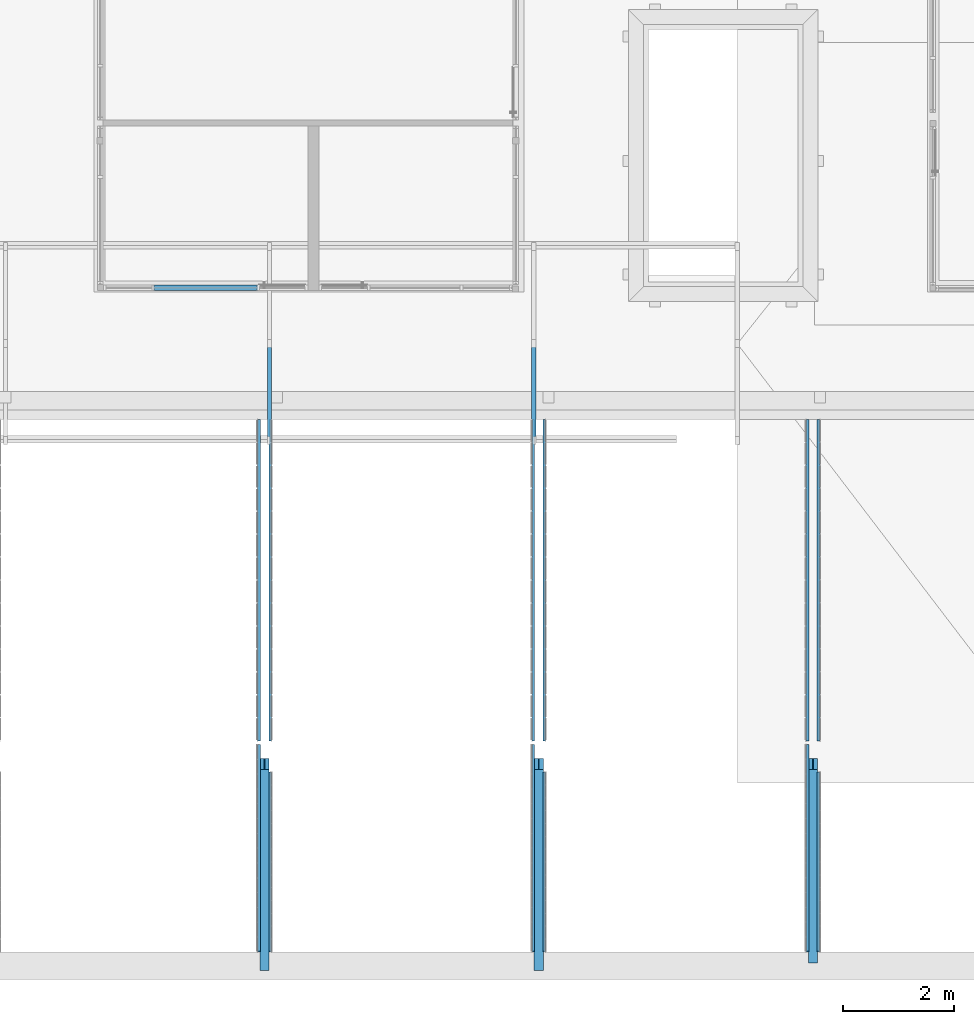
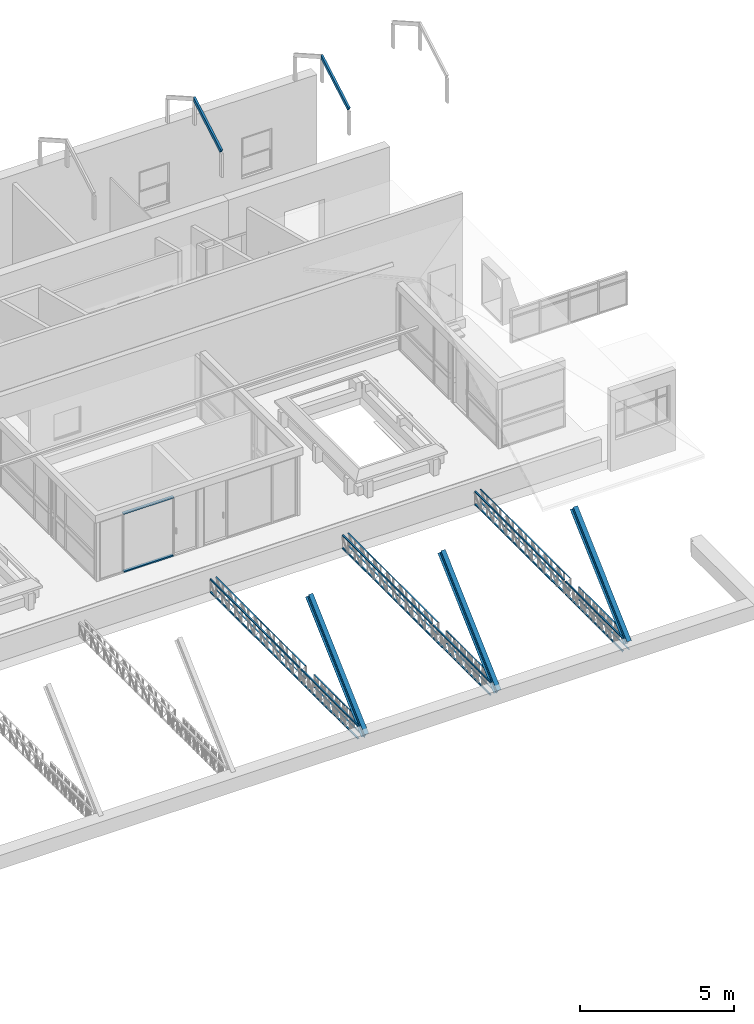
# One storey, part 10 of 153: 29 beams, 2 members, 15 elements without a shape of their own.
"""IFC4 building model written with IfcOpenShell, lengths in metres."""

import ifcopenshell
import ifcopenshell.guid

model = None  # the IFC model being written
_history = None  # IfcOwnerHistory: only IFC2X3 demands one
_inside = {}  # id of a spatial element -> (the spatial element, [elements in it])
_under = {}  # id of a project, library or spatial element -> (it, [spatial elements below it])
_declared = {}  # id of a project -> (the project, [libraries it declares])
_typed = {}  # id of a type object -> (the type object, [elements of that type])
_made_of = {}  # id of a material, layer set ... -> (it, [elements and type objects made of it])


def new_model(schema):
    """Start an empty IFC model of exactly this schema.

    Asked for "IFC4X3", IfcOpenShell would pick the latest addendum, in which some entities
    have other attributes; the version numbers below select the first issue.
    IFC2X3 requires an IfcOwnerHistory on every rooted entity: one is made here for all.
    """
    global model, _history
    if schema == "IFC4X3":
        model = ifcopenshell.file(schema_version=(4, 3, 0, 0))
    else:
        model = ifcopenshell.file(schema=schema)
    _inside.clear()
    _under.clear()
    _declared.clear()
    _typed.clear()
    _made_of.clear()
    _history = None
    if model.schema == "IFC2X3":
        org = make("IfcOrganization", Name="unknown")
        user = make(
            "IfcPersonAndOrganization",
            ThePerson=make("IfcPerson", FamilyName="unknown"),
            TheOrganization=org,
        )
        app = make(
            "IfcApplication",
            ApplicationDeveloper=org,
            Version="unknown",
            ApplicationFullName="unknown",
            ApplicationIdentifier="unknown",
        )
        _history = make(
            "IfcOwnerHistory",
            OwningUser=user,
            OwningApplication=app,
            ChangeAction="ADDED",
            CreationDate=0,
        )
    return model


def make(cls, **values):
    """One entity of the class cls with the attributes given. An attribute that is None is left unset."""
    return model.create_entity(
        cls, **{name: value for name, value in values.items() if value is not None}
    )


def entity(cls, *values):
    """Any entity or typed value of the class cls, its attributes in the order of the schema. None: left unset."""
    e = model.create_entity(cls)
    for i, value in enumerate(values):
        if value is not None:
            e[i] = value
    return e


def rooted(cls, **values):
    """An entity with a GlobalId (a new one), such as an element, a storey or a relation."""
    return make(cls, GlobalId=ifcopenshell.guid.new(), OwnerHistory=_history, **values)


def si_unit(unit_type, name, prefix=None):
    """IfcSIUnit, for example si_unit("LENGTHUNIT", "METRE", prefix="MILLI")."""
    return make("IfcSIUnit", UnitType=unit_type, Prefix=prefix, Name=name)


def converted_unit(unit_type, name, factor, base, dimensions=None, offset=None):
    """IfcConversionBasedUnit, such as the inch: factor (a typed value) times the base unit."""
    return make(
        "IfcConversionBasedUnit"
        if offset is None
        else "IfcConversionBasedUnitWithOffset",
        ConversionOffset=offset,
        Dimensions=None
        if dimensions is None
        else entity("IfcDimensionalExponents", *dimensions),
        UnitType=unit_type,
        Name=name,
        ConversionFactor=make(
            "IfcMeasureWithUnit", ValueComponent=factor, UnitComponent=base
        ),
    )


def derived_unit(unit_type, elements):
    """IfcDerivedUnit: a product of units, each with its exponent."""
    return make(
        "IfcDerivedUnit",
        Elements=[
            make("IfcDerivedUnitElement", Unit=unit, Exponent=power)
            for unit, power in elements
        ],
        UnitType=unit_type,
    )


def assignment(units):
    """IfcUnitAssignment: the units of a project."""
    return None if units is None else make("IfcUnitAssignment", Units=units)


def point(xyz):
    """IfcCartesianPoint."""
    return None if xyz is None else make("IfcCartesianPoint", Coordinates=xyz)


def direction(xyz):
    """IfcDirection."""
    return None if xyz is None else make("IfcDirection", DirectionRatios=xyz)


def frame(location, z_axis=None, x_axis=None):
    """IfcAxis2Placement3D, a coordinate frame: its origin and axes. An axis left out is left unset."""
    return make(
        "IfcAxis2Placement3D",
        Location=point(location),
        Axis=direction(z_axis),
        RefDirection=direction(x_axis),
    )


def origin():
    """The frame at (0, 0, 0) with its axes left unset."""
    return frame((0.0, 0.0, 0.0))


def place(relative_to, where):
    """IfcLocalPlacement: puts the frame where relative to a parent placement (None: the world)."""
    return make(
        "IfcLocalPlacement", PlacementRelTo=relative_to, RelativePlacement=where
    )


def context(
    kind, dimensions, precision=None, world=None, true_north=None, identifier=None
):
    """IfcGeometricRepresentationContext, for example the 3D "Model" context."""
    return make(
        "IfcGeometricRepresentationContext",
        ContextIdentifier=identifier,
        ContextType=kind,
        CoordinateSpaceDimension=dimensions,
        Precision=precision,
        WorldCoordinateSystem=world,
        TrueNorth=true_north,
    )


def subcontext(parent, identifier, kind, view, scale=None):
    """IfcGeometricRepresentationSubContext, for example "Body" below "Model"."""
    return make(
        "IfcGeometricRepresentationSubContext",
        ContextIdentifier=identifier,
        ContextType=kind,
        ParentContext=parent,
        TargetScale=scale,
        TargetView=view,
    )


def project(units=None, contexts=None):
    """IfcProject with its units and contexts."""
    return rooted(
        "IfcProject",
        Name="project",
        RepresentationContexts=contexts,
        UnitsInContext=assignment(units),
    )


def spatial(cls, under=None, at=None, **own):
    """A site, building, storey or space (cls), placed at a placement, below another one or the project."""
    s = rooted(cls, ObjectPlacement=at, **own)
    if under is not None:
        _under.setdefault(under.id(), (under, []))[1].append(s)
    return s


def point_list(points):
    """IfcCartesianPointList2D or 3D."""
    cls = (
        "IfcCartesianPointList2D" if len(points[0]) == 2 else "IfcCartesianPointList3D"
    )
    return make(cls, CoordList=points)


def line(*indices):
    """IfcLineIndex: a straight run through numbered points of an indexed curve."""
    return model.create_entity("IfcLineIndex", indices)


def arc(*indices):
    """IfcArcIndex: an arc through three numbered points of an indexed curve."""
    return model.create_entity("IfcArcIndex", indices)


def indexed_curve(points, segments=None, self_intersect=None):
    """IfcIndexedPolyCurve: lines and arcs through numbered points (the first is 1)."""
    return make(
        "IfcIndexedPolyCurve",
        Points=point_list(points),
        Segments=segments,
        SelfIntersect=self_intersect,
    )


def outline(outer, holes=None, kind="AREA"):
    """IfcArbitraryClosedProfileDef: a profile drawn as a closed curve; with holes, ...WithVoids."""
    if holes is None:
        return make("IfcArbitraryClosedProfileDef", ProfileType=kind, OuterCurve=outer)
    return make(
        "IfcArbitraryProfileDefWithVoids",
        ProfileType=kind,
        OuterCurve=outer,
        InnerCurves=holes,
    )


def extrude(swept, where, along, depth):
    """IfcExtrudedAreaSolid: the profile swept, set in the frame where, extruded along a direction by depth."""
    return make(
        "IfcExtrudedAreaSolid",
        SweptArea=swept,
        Position=where,
        ExtrudedDirection=direction(along),
        Depth=depth,
    )


def shape(context_of_items, identifier, shape_type, items):
    """IfcShapeRepresentation: the items that make up one representation, for example the "Body"."""
    return make(
        "IfcShapeRepresentation",
        ContextOfItems=context_of_items,
        RepresentationIdentifier=identifier,
        RepresentationType=shape_type,
        Items=items,
    )


def source(mapping_origin, context_of_items, identifier, shape_type, items):
    """IfcRepresentationMap: a shape defined once, which mapped items show again and again."""
    return make(
        "IfcRepresentationMap",
        MappingOrigin=mapping_origin,
        MappedRepresentation=shape(context_of_items, identifier, shape_type, items),
    )


def transform(
    local_origin,
    x_axis=None,
    y_axis=None,
    z_axis=None,
    scale=None,
    scale2=None,
    scale3=None,
    uniform=True,
):
    """IfcCartesianTransformationOperator3D, or its non-uniform kind. x_axis, y_axis, z_axis: its Axis1, 2, 3."""
    if uniform:
        return make(
            "IfcCartesianTransformationOperator3D",
            Axis1=direction(x_axis),
            Axis2=direction(y_axis),
            LocalOrigin=point(local_origin),
            Scale=scale,
            Axis3=direction(z_axis),
        )
    return make(
        "IfcCartesianTransformationOperator3DnonUniform",
        Axis1=direction(x_axis),
        Axis2=direction(y_axis),
        LocalOrigin=point(local_origin),
        Scale=scale,
        Axis3=direction(z_axis),
        Scale2=scale2,
        Scale3=scale3,
    )


def mapped(mapping_source, mapping_target):
    """IfcMappedItem: shows the shape of a source again, moved by a transform."""
    return make(
        "IfcMappedItem", MappingSource=mapping_source, MappingTarget=mapping_target
    )


def material(Name=None, Category=None):
    """IfcMaterial."""
    return make("IfcMaterial", Name=Name, Category=Category)


def made_of(thing, what):
    """Note that an element or type object is made of a material, layer set ...; save() writes the relation."""
    if what is not None:
        _made_of.setdefault(what.id(), (what, []))[1].append(thing)
    return thing


def type_object(cls, material=None, **own):
    """A type object (cls), such as IfcWallType, which elements share."""
    return made_of(rooted(cls, **own), material)


def type_shapes(of_type, sources):
    """Give a type object the sources (RepresentationMaps) that its elements show as mapped items."""
    of_type.RepresentationMaps = sources


def element(
    cls,
    number,
    at=None,
    inside=None,
    cuts=None,
    type_object=None,
    material=None,
    context=None,
    identifier="Body",
    shape_type=None,
    held_by="IfcProductDefinitionShape",
    body=None,
    shapes=None,
    **own,
):
    """One element of the class cls, such as IfcWall. Its Tag is "e" and its number.

    at: its placement. inside: the storey or other place that contains it. cuts: it is an
    opening in that element (IfcRelVoidsElement). A single representation is given by context,
    identifier, shape_type and body (its items); several are given by shapes. held_by: the class
    of the entity that holds the representations. save() writes the other relations.
    """
    e = rooted(cls, Tag="e%d" % number, ObjectPlacement=at, **own)
    if body is not None:
        shapes = [shape(context, identifier, shape_type, body)]
    if shapes is not None:
        e.Representation = make(held_by, Representations=shapes)
    if inside is not None:
        _inside.setdefault(inside.id(), (inside, []))[1].append(e)
    if cuts is not None:
        rooted(
            "IfcRelVoidsElement", RelatingBuildingElement=cuts, RelatedOpeningElement=e
        )
    if type_object is not None:
        _typed.setdefault(type_object.id(), (type_object, []))[1].append(e)
    return made_of(e, material)


def aggregate(whole, parts):
    """IfcRelAggregates: a whole, such as a stair, and the parts it consists of."""
    return rooted("IfcRelAggregates", RelatingObject=whole, RelatedObjects=parts)


def save(model, path):
    """Write the relations noted so far, then the file.

    IfcRelAggregates (storeys below a building ...), IfcRelContainedInSpatialStructure (elements
    in a storey), IfcRelDefinesByType, IfcRelAssociatesMaterial and IfcRelDeclares: one each for
    every whole, place, type object, material and project.
    """
    for whole, parts in _under.values():
        aggregate(whole, parts)
    for where, things in _inside.values():
        rooted(
            "IfcRelContainedInSpatialStructure",
            RelatedElements=things,
            RelatingStructure=where,
        )
    for kind, things in _typed.values():
        rooted("IfcRelDefinesByType", RelatedObjects=things, RelatingType=kind)
    for what, things in _made_of.values():
        rooted("IfcRelAssociatesMaterial", RelatedObjects=things, RelatingMaterial=what)
    for by, libraries in _declared.values():
        rooted("IfcRelDeclares", RelatingContext=by, RelatedDefinitions=libraries)
    model.write(path)


model = new_model("IFC4")

# Units and contexts
model_context = context("Model", 3, precision=1e-05, world=origin(), true_north=direction((6.123031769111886e-17, 1.0)))
body_context = subcontext(model_context, "Body", "Model", "MODEL_VIEW")
ifc_project = project(units=[si_unit("LENGTHUNIT", "METRE"), si_unit("AREAUNIT", "SQUARE_METRE"), si_unit("VOLUMEUNIT", "CUBIC_METRE"), converted_unit("PLANEANGLEUNIT", "DEGREE", entity("IfcRatioMeasure", 0.017453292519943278), si_unit("PLANEANGLEUNIT", "RADIAN"), dimensions=[0, 0, 0, 0, 0, 0, 0]), si_unit("MASSUNIT", "GRAM", prefix="KILO"), derived_unit("MASSDENSITYUNIT", [(si_unit("MASSUNIT", "GRAM", prefix="KILO"), 1), (si_unit("LENGTHUNIT", "METRE"), -3)]), derived_unit("MOMENTOFINERTIAUNIT", [(si_unit("LENGTHUNIT", "METRE"), 4)]), si_unit("TIMEUNIT", "SECOND"), si_unit("FREQUENCYUNIT", "HERTZ"), si_unit("THERMODYNAMICTEMPERATUREUNIT", "DEGREE_CELSIUS"), derived_unit("THERMALTRANSMITTANCEUNIT", [(si_unit("MASSUNIT", "GRAM", prefix="KILO"), 1), (si_unit("THERMODYNAMICTEMPERATUREUNIT", "KELVIN"), -1), (si_unit("TIMEUNIT", "SECOND"), -3)]), derived_unit("VOLUMETRICFLOWRATEUNIT", [(si_unit("LENGTHUNIT", "METRE"), 3), (si_unit("TIMEUNIT", "SECOND"), -1)]), derived_unit("MASSFLOWRATEUNIT", [(si_unit("MASSUNIT", "GRAM", prefix="KILO"), 1), (si_unit("TIMEUNIT", "SECOND"), -1)]), derived_unit("ROTATIONALFREQUENCYUNIT", [(si_unit("TIMEUNIT", "SECOND"), -1)]), si_unit("ELECTRICCURRENTUNIT", "AMPERE"), si_unit("ELECTRICVOLTAGEUNIT", "VOLT"), si_unit("POWERUNIT", "WATT"), si_unit("FORCEUNIT", "NEWTON", prefix="KILO"), si_unit("ILLUMINANCEUNIT", "LUX"), si_unit("LUMINOUSFLUXUNIT", "LUMEN"), si_unit("LUMINOUSINTENSITYUNIT", "CANDELA"), derived_unit("USERDEFINED", [(si_unit("MASSUNIT", "GRAM", prefix="KILO"), -1), (si_unit("LENGTHUNIT", "METRE"), -2), (si_unit("TIMEUNIT", "SECOND"), 3), (si_unit("LUMINOUSFLUXUNIT", "LUMEN"), 1)]), derived_unit("SOUNDPOWERUNIT", [(si_unit("MASSUNIT", "GRAM", prefix="KILO"), 1), (si_unit("LENGTHUNIT", "METRE"), 2), (si_unit("TIMEUNIT", "SECOND"), -3)]), derived_unit("SOUNDPRESSUREUNIT", [(si_unit("MASSUNIT", "GRAM", prefix="KILO"), 1), (si_unit("LENGTHUNIT", "METRE"), -1), (si_unit("TIMEUNIT", "SECOND"), -2)]), derived_unit("LINEARVELOCITYUNIT", [(si_unit("LENGTHUNIT", "METRE"), 1), (si_unit("TIMEUNIT", "SECOND"), -1)]), si_unit("PRESSUREUNIT", "PASCAL"), derived_unit("USERDEFINED", [(si_unit("LENGTHUNIT", "METRE"), -2), (si_unit("MASSUNIT", "GRAM", prefix="KILO"), 1), (si_unit("TIMEUNIT", "SECOND"), -2)]), derived_unit("LINEARFORCEUNIT", [(si_unit("MASSUNIT", "GRAM", prefix="KILO"), 1), (si_unit("LENGTHUNIT", "METRE"), 1), (si_unit("TIMEUNIT", "SECOND"), -2), (si_unit("LENGTHUNIT", "METRE"), -1)]), derived_unit("PLANARFORCEUNIT", [(si_unit("MASSUNIT", "GRAM", prefix="KILO"), 1), (si_unit("LENGTHUNIT", "METRE"), 1), (si_unit("TIMEUNIT", "SECOND"), -2), (si_unit("LENGTHUNIT", "METRE"), -2)])], contexts=[model_context])

# Site, building, storey
site_placement = place(None, origin())
site = spatial("IfcSite", under=ifc_project, at=site_placement, Name="Superficie", CompositionType="ELEMENT")
building_placement = place(site_placement, origin())
building = spatial("IfcBuilding", under=site, at=building_placement, CompositionType="ELEMENT")
storey_placement = place(building_placement, frame((0.0, 0.0, 3.5999999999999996)))
storey = spatial("IfcBuildingStorey", under=building, at=storey_placement, Name="Nivel 1", CompositionType="ELEMENT", Elevation=3.5999999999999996)

# Curtain wall, members
curtain_wall_type = type_object("IfcCurtainWallType", Name="Muro cortina:Muro cortina - simple", PredefinedType="NOTDEFINED")
curtain_wall_placement = place(storey_placement, frame((0.0, 0.0, -3.5999999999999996)))
curtain_wall = element("IfcCurtainWall", 1, at=curtain_wall_placement, inside=storey, type_object=curtain_wall_type, Name="Muro cortina:Muro cortina - simple", ObjectType="Muro cortina:Muro cortina - simple", PredefinedType="NOTDEFINED")
ifc_material_1 = material(Name="<Unnamed>")
member_type_1 = type_object("IfcMemberType", Name="Montante rectangular:Montante rectangular - 5 x 10 cm", PredefinedType="MULLION", material=ifc_material_1)
shared_shape_1 = source(origin(), body_context, "Body", "SweptSolid", [
    extrude(outline(indexed_curve([(-0.05, -0.025), (0.05, -0.025), (0.05, 0.025), (-0.05, 0.025), (-0.05, -0.025)], self_intersect=False)), frame((-0.025, 0.0, -1.8899999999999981), z_axis=(0.0, 0.0, 1.0), x_axis=(0.0, -1.0, 0.0)), (0.0, 0.0, 1.0), 1.8899999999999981),
])
type_shapes(member_type_1, [shared_shape_1])
member_1_placement = place(curtain_wall_placement, frame((5.94179901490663, -0.9517564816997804, 5.949999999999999), z_axis=(1.0, 0.0, 0.0), x_axis=(0.0, 0.0, 1.0)))
member_1 = element("IfcMember", 2, at=member_1_placement, type_object=member_type_1, material=ifc_material_1, Name="Montante rectangular:Montante rectangular - 5 x 10 cm", ObjectType="Montante rectangular:Montante rectangular - 5 x 10 cm", PredefinedType="MULLION", context=body_context, shape_type="MappedRepresentation", body=[
    mapped(shared_shape_1, transform((0.0, 0.0, 0.0), scale=1.0)),
])
member_type_2 = type_object("IfcMemberType", Name="Montante rectangular:Montante rectangular - 5 x 10 cm", PredefinedType="MULLION", material=ifc_material_1)
shared_shape_2 = source(origin(), body_context, "Body", "SweptSolid", [
    extrude(outline(indexed_curve([(-0.05, -0.025), (0.05, -0.025), (0.05, 0.025), (-0.05, 0.025), (-0.05, -0.025)], self_intersect=False)), frame((-0.025, 0.0, -1.839999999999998), z_axis=(0.0, 0.0, 1.0), x_axis=(0.0, -1.0, 0.0)), (0.0, 0.0, 1.0), 1.839999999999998),
])
type_shapes(member_type_2, [shared_shape_2])
member_2_placement = place(curtain_wall_placement, frame((4.076799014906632, -0.9517564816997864, 3.5999999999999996), z_axis=(-1.0, 0.0, 0.0), x_axis=(0.0, 0.0, -1.0)))
member_2 = element("IfcMember", 3, at=member_2_placement, type_object=member_type_2, material=ifc_material_1, Name="Montante rectangular:Montante rectangular - 5 x 10 cm", ObjectType="Montante rectangular:Montante rectangular - 5 x 10 cm", PredefinedType="MULLION", context=body_context, shape_type="MappedRepresentation", body=[
    mapped(shared_shape_2, transform((0.0, 0.0, 0.0), scale=1.0)),
])
aggregate(curtain_wall, [member_1, member_2])

# Assembly, beams
assembly_1_placement = place(storey_placement, origin())
assembly_1 = element("IfcElementAssembly", 4, at=assembly_1_placement, inside=storey, Name="Viga de celosia 13:Viga de celosia 13", ObjectType="Viga de celosia 13:Viga de celosia 13", AssemblyPlace="NOTDEFINED", PredefinedType="TRUSS")
ifc_material_2 = material(Name="Metal - Calibre delgado", Category="Metal")
beam_type_1 = type_object("IfcBeamType", Name="Calibre delgado-Ángulos:L140 x 40", PredefinedType="BEAM", material=ifc_material_2)
shared_shape_3 = source(origin(), body_context, "Body", "SweptSolid", [
    extrude(outline(indexed_curve([(-0.01766666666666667, -0.032333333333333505), (-0.014666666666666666, -0.032333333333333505), (-0.014666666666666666, 0.014666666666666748), (0.03233333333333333, 0.014666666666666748), (0.03233333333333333, 0.017666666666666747), (-0.01766666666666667, 0.017666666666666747), (-0.01766666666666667, -0.032333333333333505)], self_intersect=False)), frame((-2.899999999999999, -0.017666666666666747, -0.01766666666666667), z_axis=(1.0, 0.0, 0.0), x_axis=(0.0, 0.0, -1.0)), (0.0, 0.0, 1.0), 5.799999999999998),
])
type_shapes(beam_type_1, [shared_shape_3])
beam_1_placement = place(assembly_1_placement, frame((5.936799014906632, -6.234029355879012, 0.02499999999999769), z_axis=(0.0, 0.0, 1.0), x_axis=(0.0, 1.0, 0.0)))
beam_1 = element("IfcBeam", 5, at=beam_1_placement, type_object=beam_type_1, material=ifc_material_2, Name="Calibre delgado-Ángulos:L140 x 40", ObjectType="Calibre delgado-Ángulos:L140 x 40", PredefinedType="BEAM", context=body_context, shape_type="MappedRepresentation", body=[
    mapped(shared_shape_3, transform((0.0, 0.0, 0.0), scale=1.0)),
])
beam_2_placement = place(assembly_1_placement, frame((5.936799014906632, -6.234029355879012, 0.5249999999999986), z_axis=(0.0, 0.0, 1.0), x_axis=(0.0, 1.0, 0.0)))
beam_2 = element("IfcBeam", 6, at=beam_2_placement, type_object=beam_type_1, material=ifc_material_2, Name="Calibre delgado-Ángulos:L140 x 40", ObjectType="Calibre delgado-Ángulos:L140 x 40", PredefinedType="BEAM", context=body_context, shape_type="MappedRepresentation", body=[
    mapped(shared_shape_3, transform((0.0, 0.0, 0.0), scale=1.0)),
])
aggregate(assembly_1, [beam_1, beam_2])

assembly_2_placement = place(storey_placement, origin())
assembly_2 = element("IfcElementAssembly", 7, at=assembly_2_placement, inside=storey, Name="Viga de celosia 13:Viga de celosia 13", ObjectType="Viga de celosia 13:Viga de celosia 13", AssemblyPlace="NOTDEFINED", PredefinedType="TRUSS")
beam_3_placement = place(assembly_2_placement, frame((10.886799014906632, -6.234029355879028, 0.02499999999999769), z_axis=(0.0, 0.0, 1.0), x_axis=(0.0, 1.0, 0.0)))
beam_3 = element("IfcBeam", 8, at=beam_3_placement, type_object=beam_type_1, material=ifc_material_2, Name="Calibre delgado-Ángulos:L140 x 40", ObjectType="Calibre delgado-Ángulos:L140 x 40", PredefinedType="BEAM", context=body_context, shape_type="MappedRepresentation", body=[
    mapped(shared_shape_3, transform((0.0, 0.0, 0.0), scale=1.0)),
])
beam_4_placement = place(assembly_2_placement, frame((10.886799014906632, -6.234029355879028, 0.5249999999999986), z_axis=(0.0, 0.0, 1.0), x_axis=(0.0, 1.0, 0.0)))
beam_4 = element("IfcBeam", 9, at=beam_4_placement, type_object=beam_type_1, material=ifc_material_2, Name="Calibre delgado-Ángulos:L140 x 40", ObjectType="Calibre delgado-Ángulos:L140 x 40", PredefinedType="BEAM", context=body_context, shape_type="MappedRepresentation", body=[
    mapped(shared_shape_3, transform((0.0, 0.0, 0.0), scale=1.0)),
])
aggregate(assembly_2, [beam_3, beam_4])

assembly_3_placement = place(storey_placement, origin())
assembly_3 = element("IfcElementAssembly", 10, at=assembly_3_placement, inside=storey, Name="Viga de celosia 13:Viga de celosia 13", ObjectType="Viga de celosia 13:Viga de celosia 13", AssemblyPlace="NOTDEFINED", PredefinedType="TRUSS")
beam_5_placement = place(assembly_3_placement, frame((15.836799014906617, -6.234029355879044, 0.02499999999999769), z_axis=(0.0, 0.0, 1.0), x_axis=(0.0, 1.0, 0.0)))
beam_5 = element("IfcBeam", 11, at=beam_5_placement, type_object=beam_type_1, material=ifc_material_2, Name="Calibre delgado-Ángulos:L140 x 40", ObjectType="Calibre delgado-Ángulos:L140 x 40", PredefinedType="BEAM", context=body_context, shape_type="MappedRepresentation", body=[
    mapped(shared_shape_3, transform((0.0, 0.0, 0.0), scale=1.0)),
])
beam_6_placement = place(assembly_3_placement, frame((15.836799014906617, -6.234029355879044, 0.5249999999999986), z_axis=(0.0, 0.0, 1.0), x_axis=(0.0, 1.0, 0.0)))
beam_6 = element("IfcBeam", 12, at=beam_6_placement, type_object=beam_type_1, material=ifc_material_2, Name="Calibre delgado-Ángulos:L140 x 40", ObjectType="Calibre delgado-Ángulos:L140 x 40", PredefinedType="BEAM", context=body_context, shape_type="MappedRepresentation", body=[
    mapped(shared_shape_3, transform((0.0, 0.0, 0.0), scale=1.0)),
])
aggregate(assembly_3, [beam_5, beam_6])

assembly_4_placement = place(storey_placement, origin())
assembly_4 = element("IfcElementAssembly", 13, at=assembly_4_placement, inside=storey, Name="Viga de celosia 13:Viga de celosia 13", ObjectType="Viga de celosia 13:Viga de celosia 13", AssemblyPlace="NOTDEFINED", PredefinedType="TRUSS")
beam_type_2 = type_object("IfcBeamType", Name="Calibre delgado-Ángulos:L140 x 40", PredefinedType="BEAM", material=ifc_material_2)
shared_shape_4 = source(origin(), body_context, "Body", "SweptSolid", [
    extrude(outline(indexed_curve([(-0.017666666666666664, -0.01766666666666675), (0.03233333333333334, -0.01766666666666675), (0.03233333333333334, -0.01466666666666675), (-0.014666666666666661, -0.014666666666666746), (-0.014666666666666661, 0.0323333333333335), (-0.017666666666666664, 0.0323333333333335), (-0.017666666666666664, -0.01766666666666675)], self_intersect=False)), frame((-2.899999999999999, 0.01766666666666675, -0.017666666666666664), z_axis=(1.0, 0.0, 0.0), x_axis=(0.0, 0.0, -1.0)), (0.0, 0.0, 1.0), 5.799999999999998),
])
type_shapes(beam_type_2, [shared_shape_4])
beam_7_placement = place(assembly_4_placement, frame((6.1867990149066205, -6.234029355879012, 0.02499999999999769), z_axis=(0.0, 0.0, 1.0), x_axis=(0.0, 1.0, 0.0)))
beam_7 = element("IfcBeam", 14, at=beam_7_placement, type_object=beam_type_2, material=ifc_material_2, Name="Calibre delgado-Ángulos:L140 x 40", ObjectType="Calibre delgado-Ángulos:L140 x 40", PredefinedType="BEAM", context=body_context, shape_type="MappedRepresentation", body=[
    mapped(shared_shape_4, transform((0.0, 0.0, 0.0), scale=1.0)),
])
beam_8_placement = place(assembly_4_placement, frame((6.1867990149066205, -6.234029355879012, 0.5249999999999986), z_axis=(0.0, 0.0, 1.0), x_axis=(0.0, 1.0, 0.0)))
beam_8 = element("IfcBeam", 15, at=beam_8_placement, type_object=beam_type_2, material=ifc_material_2, Name="Calibre delgado-Ángulos:L140 x 40", ObjectType="Calibre delgado-Ángulos:L140 x 40", PredefinedType="BEAM", context=body_context, shape_type="MappedRepresentation", body=[
    mapped(shared_shape_4, transform((0.0, 0.0, 0.0), scale=1.0)),
])
aggregate(assembly_4, [beam_7, beam_8])

assembly_5_placement = place(storey_placement, origin())
assembly_5 = element("IfcElementAssembly", 16, at=assembly_5_placement, inside=storey, Name="Viga de celosia 13:Viga de celosia 13", ObjectType="Viga de celosia 13:Viga de celosia 13", AssemblyPlace="NOTDEFINED", PredefinedType="TRUSS")
beam_9_placement = place(assembly_5_placement, frame((11.136799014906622, -6.234029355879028, 0.02499999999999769), z_axis=(0.0, 0.0, 1.0), x_axis=(0.0, 1.0, 0.0)))
beam_9 = element("IfcBeam", 17, at=beam_9_placement, type_object=beam_type_2, material=ifc_material_2, Name="Calibre delgado-Ángulos:L140 x 40", ObjectType="Calibre delgado-Ángulos:L140 x 40", PredefinedType="BEAM", context=body_context, shape_type="MappedRepresentation", body=[
    mapped(shared_shape_4, transform((0.0, 0.0, 0.0), scale=1.0)),
])
beam_10_placement = place(assembly_5_placement, frame((11.136799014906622, -6.234029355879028, 0.5249999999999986), z_axis=(0.0, 0.0, 1.0), x_axis=(0.0, 1.0, 0.0)))
beam_10 = element("IfcBeam", 18, at=beam_10_placement, type_object=beam_type_2, material=ifc_material_2, Name="Calibre delgado-Ángulos:L140 x 40", ObjectType="Calibre delgado-Ángulos:L140 x 40", PredefinedType="BEAM", context=body_context, shape_type="MappedRepresentation", body=[
    mapped(shared_shape_4, transform((0.0, 0.0, 0.0), scale=1.0)),
])
aggregate(assembly_5, [beam_9, beam_10])

assembly_6_placement = place(storey_placement, origin())
assembly_6 = element("IfcElementAssembly", 19, at=assembly_6_placement, inside=storey, Name="Viga de celosia 13:Viga de celosia 13", ObjectType="Viga de celosia 13:Viga de celosia 13", AssemblyPlace="NOTDEFINED", PredefinedType="TRUSS")
beam_11_placement = place(assembly_6_placement, frame((16.086799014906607, -6.234029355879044, 0.02499999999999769), z_axis=(0.0, 0.0, 1.0), x_axis=(0.0, 1.0, 0.0)))
beam_11 = element("IfcBeam", 20, at=beam_11_placement, type_object=beam_type_2, material=ifc_material_2, Name="Calibre delgado-Ángulos:L140 x 40", ObjectType="Calibre delgado-Ángulos:L140 x 40", PredefinedType="BEAM", context=body_context, shape_type="MappedRepresentation", body=[
    mapped(shared_shape_4, transform((0.0, 0.0, 0.0), scale=1.0)),
])
beam_12_placement = place(assembly_6_placement, frame((16.086799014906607, -6.234029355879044, 0.5249999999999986), z_axis=(0.0, 0.0, 1.0), x_axis=(0.0, 1.0, 0.0)))
beam_12 = element("IfcBeam", 21, at=beam_12_placement, type_object=beam_type_2, material=ifc_material_2, Name="Calibre delgado-Ángulos:L140 x 40", ObjectType="Calibre delgado-Ángulos:L140 x 40", PredefinedType="BEAM", context=body_context, shape_type="MappedRepresentation", body=[
    mapped(shared_shape_4, transform((0.0, 0.0, 0.0), scale=1.0)),
])
aggregate(assembly_6, [beam_11, beam_12])

# Assembly, beam
assembly_7_placement = place(storey_placement, origin())
assembly_7 = element("IfcElementAssembly", 22, at=assembly_7_placement, inside=storey, Name="Viga de celosia 13:Viga de celosia 13", ObjectType="Viga de celosia 13:Viga de celosia 13", AssemblyPlace="NOTDEFINED", PredefinedType="TRUSS")
beam_type_3 = type_object("IfcBeamType", Name="Calibre delgado-Ángulos:L140 x 40", PredefinedType="BEAM", material=ifc_material_2)
shared_shape_5 = source(origin(), body_context, "Body", "SweptSolid", [
    extrude(outline(indexed_curve([(-0.01766666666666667, -0.032333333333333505), (-0.014666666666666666, -0.032333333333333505), (-0.014666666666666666, 0.014666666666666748), (0.03233333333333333, 0.014666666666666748), (0.03233333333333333, 0.017666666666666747), (-0.01766666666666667, 0.017666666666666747), (-0.01766666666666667, -0.032333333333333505)], self_intersect=False)), frame((-1.872500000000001, -0.017666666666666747, -0.01766666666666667), z_axis=(1.0, 0.0, 0.0), x_axis=(0.0, 0.0, -1.0)), (0.0, 0.0, 1.0), 3.745000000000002),
])
type_shapes(beam_type_3, [shared_shape_5])
beam_13_placement = place(assembly_7_placement, frame((5.936799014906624, -11.071002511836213, 0.02499999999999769), z_axis=(0.0, 0.0, 1.0), x_axis=(0.0, 1.0, 0.0)))
beam_13 = element("IfcBeam", 23, at=beam_13_placement, type_object=beam_type_3, material=ifc_material_2, Name="Calibre delgado-Ángulos:L140 x 40", ObjectType="Calibre delgado-Ángulos:L140 x 40", PredefinedType="BEAM", context=body_context, shape_type="MappedRepresentation", body=[
    mapped(shared_shape_5, transform((0.0, 0.0, 0.0), scale=1.0)),
])

assembly_8_placement = place(storey_placement, origin())
assembly_8 = element("IfcElementAssembly", 24, at=assembly_8_placement, inside=storey, Name="Viga de celosia 13:Viga de celosia 13", ObjectType="Viga de celosia 13:Viga de celosia 13", AssemblyPlace="NOTDEFINED", PredefinedType="TRUSS")
beam_14_placement = place(assembly_8_placement, frame((10.886799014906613, -11.07100251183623, 0.02499999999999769), z_axis=(0.0, 0.0, 1.0), x_axis=(0.0, 1.0, 0.0)))
beam_14 = element("IfcBeam", 25, at=beam_14_placement, type_object=beam_type_3, material=ifc_material_2, Name="Calibre delgado-Ángulos:L140 x 40", ObjectType="Calibre delgado-Ángulos:L140 x 40", PredefinedType="BEAM", context=body_context, shape_type="MappedRepresentation", body=[
    mapped(shared_shape_5, transform((0.0, 0.0, 0.0), scale=1.0)),
])

assembly_9_placement = place(storey_placement, origin())
assembly_9 = element("IfcElementAssembly", 26, at=assembly_9_placement, inside=storey, Name="Viga de celosia 13:Viga de celosia 13", ObjectType="Viga de celosia 13:Viga de celosia 13", AssemblyPlace="NOTDEFINED", PredefinedType="TRUSS")
beam_15_placement = place(assembly_9_placement, frame((15.83679901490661, -11.071002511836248, 0.02499999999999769), z_axis=(0.0, 0.0, 1.0), x_axis=(0.0, 1.0, 0.0)))
beam_15 = element("IfcBeam", 27, at=beam_15_placement, type_object=beam_type_3, material=ifc_material_2, Name="Calibre delgado-Ángulos:L140 x 40", ObjectType="Calibre delgado-Ángulos:L140 x 40", PredefinedType="BEAM", context=body_context, shape_type="MappedRepresentation", body=[
    mapped(shared_shape_5, transform((0.0, 0.0, 0.0), scale=1.0)),
])

# Beam
beam_type_4 = type_object("IfcBeamType", Name="Calibre delgado-Ángulos:L140 x 40", PredefinedType="BEAM", material=ifc_material_2)
shared_shape_6 = source(origin(), body_context, "Body", "SweptSolid", [
    extrude(outline(indexed_curve([(-0.01766666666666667, -0.032333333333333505), (-0.014666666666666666, -0.032333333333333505), (-0.014666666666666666, 0.014666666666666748), (0.03233333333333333, 0.014666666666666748), (0.03233333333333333, 0.017666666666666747), (-0.01766666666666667, 0.017666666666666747), (-0.01766666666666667, -0.032333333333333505)], self_intersect=False)), frame((-1.8594999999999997, -0.017666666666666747, -0.01766666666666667), z_axis=(1.0, 0.0, 0.0), x_axis=(0.0, 0.0, -1.0)), (0.0, 0.0, 1.0), 3.7320000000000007),
])
type_shapes(beam_type_4, [shared_shape_6])
beam_16_placement = place(assembly_7_placement, frame((5.936799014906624, -11.071002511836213, 0.5249999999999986), z_axis=(0.0, 0.0, 1.0), x_axis=(0.0, 1.0, 0.0)))
beam_16 = element("IfcBeam", 28, at=beam_16_placement, type_object=beam_type_4, material=ifc_material_2, Name="Calibre delgado-Ángulos:L140 x 40", ObjectType="Calibre delgado-Ángulos:L140 x 40", PredefinedType="BEAM", context=body_context, shape_type="MappedRepresentation", body=[
    mapped(shared_shape_6, transform((0.0, 0.0, 0.0), scale=1.0)),
])

aggregate(assembly_7, [beam_13, beam_16])

beam_17_placement = place(assembly_8_placement, frame((10.886799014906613, -11.07100251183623, 0.5249999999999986), z_axis=(0.0, 0.0, 1.0), x_axis=(0.0, 1.0, 0.0)))
beam_17 = element("IfcBeam", 29, at=beam_17_placement, type_object=beam_type_4, material=ifc_material_2, Name="Calibre delgado-Ángulos:L140 x 40", ObjectType="Calibre delgado-Ángulos:L140 x 40", PredefinedType="BEAM", context=body_context, shape_type="MappedRepresentation", body=[
    mapped(shared_shape_6, transform((0.0, 0.0, 0.0), scale=1.0)),
])

aggregate(assembly_8, [beam_14, beam_17])

beam_18_placement = place(assembly_9_placement, frame((15.83679901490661, -11.071002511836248, 0.5249999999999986), z_axis=(0.0, 0.0, 1.0), x_axis=(0.0, 1.0, 0.0)))
beam_18 = element("IfcBeam", 30, at=beam_18_placement, type_object=beam_type_4, material=ifc_material_2, Name="Calibre delgado-Ángulos:L140 x 40", ObjectType="Calibre delgado-Ángulos:L140 x 40", PredefinedType="BEAM", context=body_context, shape_type="MappedRepresentation", body=[
    mapped(shared_shape_6, transform((0.0, 0.0, 0.0), scale=1.0)),
])

aggregate(assembly_9, [beam_15, beam_18])

# Assembly, beam
assembly_10_placement = place(storey_placement, origin())
assembly_10 = element("IfcElementAssembly", 31, at=assembly_10_placement, inside=storey, Name="Viga de celosia 13:Viga de celosia 13", ObjectType="Viga de celosia 13:Viga de celosia 13", AssemblyPlace="NOTDEFINED", PredefinedType="TRUSS")
beam_type_5 = type_object("IfcBeamType", Name="Calibre delgado-Ángulos:L140 x 40", PredefinedType="BEAM", material=ifc_material_2)
shared_shape_7 = source(origin(), body_context, "Body", "SweptSolid", [
    extrude(outline(indexed_curve([(-0.017666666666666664, -0.01766666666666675), (0.03233333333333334, -0.01766666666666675), (0.03233333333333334, -0.01466666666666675), (-0.014666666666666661, -0.014666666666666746), (-0.014666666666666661, 0.0323333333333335), (-0.017666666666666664, 0.0323333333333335), (-0.017666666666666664, -0.01766666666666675)], self_intersect=False)), frame((-1.6224999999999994, 0.01766666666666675, -0.017666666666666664), z_axis=(1.0, 0.0, 0.0), x_axis=(0.0, 0.0, -1.0)), (0.0, 0.0, 1.0), 3.2449999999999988),
])
type_shapes(beam_type_5, [shared_shape_7])
beam_19_placement = place(assembly_10_placement, frame((6.186799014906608, -11.32100251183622, 0.02499999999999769), z_axis=(0.0, 0.0, 1.0), x_axis=(0.0, 1.0, 0.0)))
beam_19 = element("IfcBeam", 32, at=beam_19_placement, type_object=beam_type_5, material=ifc_material_2, Name="Calibre delgado-Ángulos:L140 x 40", ObjectType="Calibre delgado-Ángulos:L140 x 40", PredefinedType="BEAM", context=body_context, shape_type="MappedRepresentation", body=[
    mapped(shared_shape_7, transform((0.0, 0.0, 0.0), scale=1.0)),
])

assembly_11_placement = place(storey_placement, origin())
assembly_11 = element("IfcElementAssembly", 33, at=assembly_11_placement, inside=storey, Name="Viga de celosia 13:Viga de celosia 13", ObjectType="Viga de celosia 13:Viga de celosia 13", AssemblyPlace="NOTDEFINED", PredefinedType="TRUSS")
beam_20_placement = place(assembly_11_placement, frame((11.136799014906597, -11.321002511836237, 0.02499999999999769), z_axis=(0.0, 0.0, 1.0), x_axis=(0.0, 1.0, 0.0)))
beam_20 = element("IfcBeam", 34, at=beam_20_placement, type_object=beam_type_5, material=ifc_material_2, Name="Calibre delgado-Ángulos:L140 x 40", ObjectType="Calibre delgado-Ángulos:L140 x 40", PredefinedType="BEAM", context=body_context, shape_type="MappedRepresentation", body=[
    mapped(shared_shape_7, transform((0.0, 0.0, 0.0), scale=1.0)),
])

assembly_12_placement = place(storey_placement, origin())
assembly_12 = element("IfcElementAssembly", 35, at=assembly_12_placement, inside=storey, Name="Viga de celosia 13:Viga de celosia 13", ObjectType="Viga de celosia 13:Viga de celosia 13", AssemblyPlace="NOTDEFINED", PredefinedType="TRUSS")
beam_21_placement = place(assembly_12_placement, frame((16.086799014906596, -11.321002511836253, 0.02499999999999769), z_axis=(0.0, 0.0, 1.0), x_axis=(0.0, 1.0, 0.0)))
beam_21 = element("IfcBeam", 36, at=beam_21_placement, type_object=beam_type_5, material=ifc_material_2, Name="Calibre delgado-Ángulos:L140 x 40", ObjectType="Calibre delgado-Ángulos:L140 x 40", PredefinedType="BEAM", context=body_context, shape_type="MappedRepresentation", body=[
    mapped(shared_shape_7, transform((0.0, 0.0, 0.0), scale=1.0)),
])

# Beam
beam_type_6 = type_object("IfcBeamType", Name="Calibre delgado-Ángulos:L140 x 40", PredefinedType="BEAM", material=ifc_material_2)
shared_shape_8 = source(origin(), body_context, "Body", "SweptSolid", [
    extrude(outline(indexed_curve([(-0.017666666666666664, -0.01766666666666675), (0.03233333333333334, -0.01766666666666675), (0.03233333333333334, -0.01466666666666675), (-0.014666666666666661, -0.014666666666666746), (-0.014666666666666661, 0.0323333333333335), (-0.017666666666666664, 0.0323333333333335), (-0.017666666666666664, -0.01766666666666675)], self_intersect=False)), frame((-1.6095000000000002, 0.01766666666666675, -0.017666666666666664), z_axis=(1.0, 0.0, 0.0), x_axis=(0.0, 0.0, -1.0)), (0.0, 0.0, 1.0), 3.2319999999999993),
])
type_shapes(beam_type_6, [shared_shape_8])
beam_22_placement = place(assembly_10_placement, frame((6.186799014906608, -11.32100251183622, 0.5249999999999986), z_axis=(0.0, 0.0, 1.0), x_axis=(0.0, 1.0, 0.0)))
beam_22 = element("IfcBeam", 37, at=beam_22_placement, type_object=beam_type_6, material=ifc_material_2, Name="Calibre delgado-Ángulos:L140 x 40", ObjectType="Calibre delgado-Ángulos:L140 x 40", PredefinedType="BEAM", context=body_context, shape_type="MappedRepresentation", body=[
    mapped(shared_shape_8, transform((0.0, 0.0, 0.0), scale=1.0)),
])

aggregate(assembly_10, [beam_19, beam_22])

beam_23_placement = place(assembly_11_placement, frame((11.136799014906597, -11.321002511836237, 0.5249999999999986), z_axis=(0.0, 0.0, 1.0), x_axis=(0.0, 1.0, 0.0)))
beam_23 = element("IfcBeam", 38, at=beam_23_placement, type_object=beam_type_6, material=ifc_material_2, Name="Calibre delgado-Ángulos:L140 x 40", ObjectType="Calibre delgado-Ángulos:L140 x 40", PredefinedType="BEAM", context=body_context, shape_type="MappedRepresentation", body=[
    mapped(shared_shape_8, transform((0.0, 0.0, 0.0), scale=1.0)),
])

aggregate(assembly_11, [beam_20, beam_23])

beam_24_placement = place(assembly_12_placement, frame((16.086799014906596, -11.321002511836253, 0.5249999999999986), z_axis=(0.0, 0.0, 1.0), x_axis=(0.0, 1.0, 0.0)))
beam_24 = element("IfcBeam", 39, at=beam_24_placement, type_object=beam_type_6, material=ifc_material_2, Name="Calibre delgado-Ángulos:L140 x 40", ObjectType="Calibre delgado-Ángulos:L140 x 40", PredefinedType="BEAM", context=body_context, shape_type="MappedRepresentation", body=[
    mapped(shared_shape_8, transform((0.0, 0.0, 0.0), scale=1.0)),
])

aggregate(assembly_12, [beam_21, beam_24])

# Beams
ifc_material_3 = material(Name="Metal - Acero - 345 MPa", Category="Metal")
beam_type_7 = type_object("IfcBeamType", Name="UB-Perfil universal:305x165x40UB", PredefinedType="BEAM", material=ifc_material_3)
shared_shape_9 = source(origin(), body_context, "Body", "SweptSolid", [
    extrude(outline(indexed_curve([(-0.15169999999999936, -0.08250000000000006), (-0.14150000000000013, -0.08250000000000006), (-0.14150000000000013, -0.011899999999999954), (-0.13889325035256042, -0.005606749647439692), (-0.13260000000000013, -0.0029999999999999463), (0.1325999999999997, -0.0029999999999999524), (0.13889325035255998, -0.00560674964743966), (0.14149999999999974, -0.01189999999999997), (0.14149999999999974, -0.08250000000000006), (0.15170000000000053, -0.08250000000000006), (0.15170000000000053, 0.08250000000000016), (0.14149999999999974, 0.08250000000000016), (0.14149999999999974, 0.011900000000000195), (0.13889325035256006, 0.0056067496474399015), (0.13259999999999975, 0.003000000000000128), (-0.13260000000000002, 0.0030000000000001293), (-0.13889325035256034, 0.005606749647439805), (-0.14150000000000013, 0.011900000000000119), (-0.14150000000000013, 0.0824999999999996), (-0.15169999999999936, 0.0824999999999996)], segments=[line(1, 2, 3), arc(3, 4, 5), line(5, 6), arc(6, 7, 8), line(8, 9, 10, 11, 12, 13), arc(13, 14, 15), line(15, 16), arc(16, 17, 18), line(18, 19, 20, 1)], self_intersect=False)), frame((-2.7259999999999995, 0.0, 0.0), z_axis=(1.0, 0.0, 0.0), x_axis=(0.0, 0.0, -1.0)), (0.0, 0.0, 1.0), 4.754599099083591),
])
type_shapes(beam_type_7, [shared_shape_9])
beam_25_placement = place(storey_placement, frame((15.961799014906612, -11.555696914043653, 1.7559320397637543), z_axis=(0.0, -0.6782801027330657, 0.734803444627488), x_axis=(0.0, -0.734803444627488, -0.6782801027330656)))
element("IfcBeam", 40, at=beam_25_placement, inside=storey, type_object=beam_type_7, material=ifc_material_3, Name="UB-Perfil universal:305x165x40UB", ObjectType="UB-Perfil universal:305x165x40UB", PredefinedType="BEAM", context=body_context, shape_type="MappedRepresentation", body=[
    mapped(shared_shape_9, transform((0.0, 0.0, 0.0), scale=1.0)),
])
beam_type_8 = type_object("IfcBeamType", Name="UB-Perfil universal:305x165x40UB", PredefinedType="BEAM", material=ifc_material_3)
shared_shape_10 = source(origin(), body_context, "Body", "SweptSolid", [
    extrude(outline(indexed_curve([(-0.15169999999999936, -0.08250000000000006), (-0.14150000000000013, -0.08250000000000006), (-0.14150000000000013, -0.011899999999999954), (-0.1388932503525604, -0.005606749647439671), (-0.1326000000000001, -0.0029999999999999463), (0.13259999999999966, -0.0029999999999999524), (0.13889325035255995, -0.00560674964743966), (0.1414999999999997, -0.01189999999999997), (0.1414999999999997, -0.08250000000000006), (0.15170000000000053, -0.08250000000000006), (0.15170000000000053, 0.08250000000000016), (0.1414999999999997, 0.08250000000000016), (0.1414999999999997, 0.011900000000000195), (0.13889325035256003, 0.0056067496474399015), (0.13259999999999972, 0.003000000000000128), (-0.1326, 0.0030000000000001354), (-0.1388932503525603, 0.0056067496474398), (-0.14150000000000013, 0.011900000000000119), (-0.14150000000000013, 0.0824999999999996), (-0.15169999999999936, 0.0824999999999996)], segments=[line(1, 2, 3), arc(3, 4, 5), line(5, 6), arc(6, 7, 8), line(8, 9, 10, 11, 12, 13), arc(13, 14, 15), line(15, 16), arc(16, 17, 18), line(18, 19, 20, 1)], self_intersect=False)), frame((-2.7259999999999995, 0.0, 0.0), z_axis=(1.0, 0.0, 0.0), x_axis=(0.0, 0.0, -1.0)), (0.0, 0.0, 1.0), 4.936999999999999),
])
type_shapes(beam_type_8, [shared_shape_10])
for number, where, z_axis, x_axis, name in (
    (41, (11.011799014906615, -11.555696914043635, 1.7559320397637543), (0.0, -0.6782801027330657, 0.734803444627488), (0.0, -0.734803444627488, -0.6782801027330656), "UB-Perfil universal:305x165x40UB"),
    (42, (6.061799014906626, -11.555696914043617, 1.7559320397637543), (0.0, -0.6782801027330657, 0.734803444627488), (0.0, -0.734803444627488, -0.6782801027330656), "UB-Perfil universal:305x165x40UB"),
):
    element("IfcBeam", number, at=place(storey_placement, frame(where, z_axis=z_axis, x_axis=x_axis)), inside=storey, type_object=beam_type_8, material=ifc_material_3, Name=name, ObjectType="UB-Perfil universal:305x165x40UB", PredefinedType="BEAM", context=body_context, shape_type="MappedRepresentation", body=[
        mapped(shared_shape_10, transform((0.0, 0.0, 0.0), scale=1.0)),
    ])

# Assembly, beam
assembly_13_placement = place(storey_placement, origin())
assembly_13 = element("IfcElementAssembly", 43, at=assembly_13_placement, inside=storey, Name="Cercha superior:Cercha superior", ObjectType="Cercha superior:Cercha superior", AssemblyPlace="NOTDEFINED", PredefinedType="TRUSS")
ifc_material_4 = material(Name="Madera - Madera de construcción", Category="Madera")
beam_type_9 = type_object("IfcBeamType", Name="Glulam-Pino del sur:76X140", PredefinedType="BEAM", material=ifc_material_4)
shared_shape_11 = source(origin(), body_context, "Body", "SweptSolid", [
    extrude(outline(indexed_curve([(-1.009169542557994, -0.07000000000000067), (0.96916967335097, -0.06999999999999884), (1.0491694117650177, 0.0700000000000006), (-1.009169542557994, 0.06999999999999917), (-1.009169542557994, -0.07000000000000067)], self_intersect=False)), frame((6.1139262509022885, -2.833531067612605, 12.128201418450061), z_axis=(1.0, 0.0, 0.0), x_axis=(0.0, 0.866898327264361, 0.4984849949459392)), (0.0, 0.0, 1.0), 0.07600000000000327),
])
type_shapes(beam_type_9, [shared_shape_11])
beam_26_placement = place(building_placement, frame((0.0, 0.0, 9.562421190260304)))
beam_26 = element("IfcBeam", 44, at=beam_26_placement, type_object=beam_type_9, material=ifc_material_4, Name="Glulam-Pino del sur:76X140", ObjectType="Glulam-Pino del sur:76X140", PredefinedType="BEAM", context=body_context, shape_type="MappedRepresentation", body=[
    mapped(shared_shape_11, transform((0.0, 0.0, 0.0), scale=1.0)),
])
aggregate(assembly_13, [beam_26])

assembly_14_placement = place(storey_placement, origin())
assembly_14 = element("IfcElementAssembly", 45, at=assembly_14_placement, inside=storey, Name="Cercha superior:Cercha superior", ObjectType="Cercha superior:Cercha superior", AssemblyPlace="NOTDEFINED", PredefinedType="TRUSS")
beam_type_10 = type_object("IfcBeamType", Name="Glulam-Pino del sur:76X140", PredefinedType="BEAM", material=ifc_material_4)
shared_shape_12 = source(origin(), body_context, "Body", "SweptSolid", [
    extrude(outline(indexed_curve([(-1.0091695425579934, -0.06999999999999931), (0.96916967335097, -0.0700000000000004), (1.0491694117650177, 0.06999999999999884), (-1.0091695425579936, 0.0700000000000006), (-1.0091695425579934, -0.06999999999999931)], self_intersect=False)), frame((10.883926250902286, -2.8335310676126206, 12.128201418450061), z_axis=(1.0, 0.0, 0.0), x_axis=(0.0, 0.8668983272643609, 0.49848499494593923)), (0.0, 0.0, 1.0), 0.07600000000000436),
])
type_shapes(beam_type_10, [shared_shape_12])
beam_27_placement = place(building_placement, frame((0.0, 0.0, 9.562421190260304)))
beam_27 = element("IfcBeam", 46, at=beam_27_placement, type_object=beam_type_10, material=ifc_material_4, Name="Glulam-Pino del sur:76X140", ObjectType="Glulam-Pino del sur:76X140", PredefinedType="BEAM", context=body_context, shape_type="MappedRepresentation", body=[
    mapped(shared_shape_12, transform((0.0, 0.0, 0.0), scale=1.0)),
])
aggregate(assembly_14, [beam_27])

save(model, "model.ifc")
